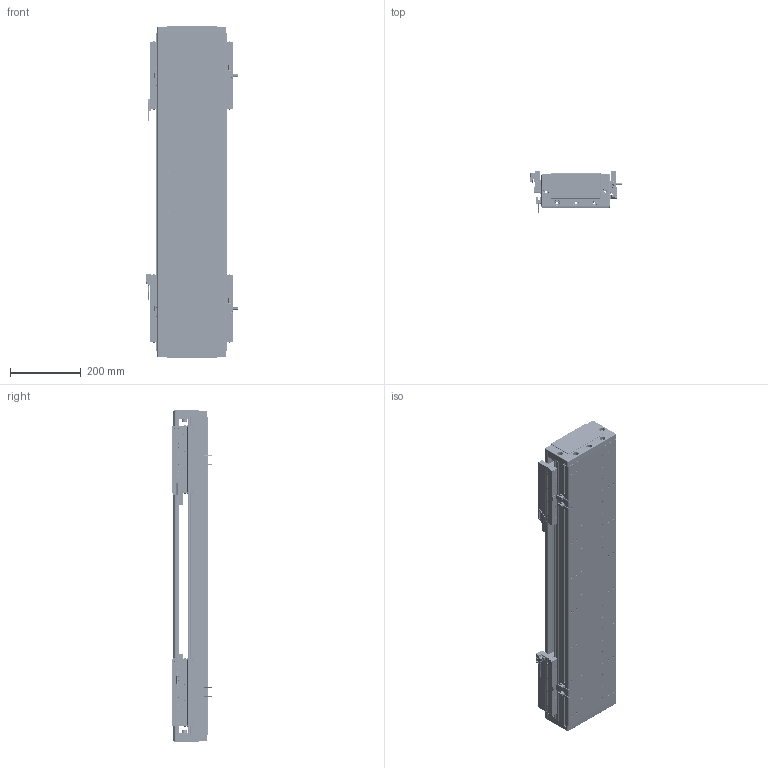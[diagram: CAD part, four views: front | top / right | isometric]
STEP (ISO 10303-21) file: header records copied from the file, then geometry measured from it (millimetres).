
FILE_DESCRIPTION (( 'STEP AP203' ), '1' );
FILE_NAME ('DA-C195-2-C2-T440-C010-0.2 眻盄萇儂.STEP', '2025-08-14T01:47:52', ( '' ), ( '' ), 'SwSTEP 2.0', 'SolidWorks 2019', '' );
FILE_SCHEMA (( 'CONFIG_CONTROL_DESIGN' ));
Length unit declared in the file: millimetre
Products named in the file (16): CU195-C2賑輸-俋楷; DA-C195-2-C2-T440-C010-0.2 眻盄萇儂; DA195-DG-H-00  端盖（压铸镂空版）; 66156-0001-003-00 裔啣; 66156-0001-005-00 光电感应片(默认); DKW168-HXJ-ZJ-00 笢潔滅袉砎蝶; PM-T45ㄗ侂狟ㄘ; LMT黍杅芛; DKW-GYP-ZJ-00 笢潔嫖萇覜茼え; MS200 棠掑喜S315-T240; IU-CU195-L 菁釱絳寢; PM-Y65嫖萇羲壽郪璃; 葩璃 DA95-GT-T-00; DKW-KGZ-ZJ-00 中间光电开关支架; IU-CU195-L-00 菁釱(L900); DA95-HXJ-00 遣喳砎蝶
Assembly tree (28 placements, depth 3):
  DA-C195-2-C2-T440-C010-0.2 眻盄萇儂
    IU-CU195-L 菁釱絳寢
      IU-CU195-L-00 菁釱(L900)
      葩璃 DA95-GT-T-00  x4
    LMT黍杅芛  x2
    MS200 棠掑喜S315-T240
    PM-T45ㄗ侂狟ㄘ  x4
    66156-0001-005-00 光电感应片(默认)  x2
    DA195-DG-H-00  端盖（压铸镂空版）  x2
    DA95-HXJ-00 遣喳砎蝶  x4
    PM-Y65嫖萇羲壽郪璃
    66156-0001-003-00 裔啣
    DKW168-HXJ-ZJ-00 笢潔滅袉砎蝶
    DKW-GYP-ZJ-00 笢潔嫖萇覜茼え
    DKW-KGZ-ZJ-00 中间光电开关支架
    CU195-C2賑輸-俋楷  x2
Bounding box: 258.2 x 115.6 x 940 mm (x, y, z)
Volume: 8113953.5 mm3; surface area: 2234270.2 mm2
Topology: 106 solids, 242 shells, 7778 faces, 19392 edges, 11763 vertices
Faces by surface type: cylinder 3106, plane 2856, cone 946, bspline 718, torus 80, sphere 72
Entity records: 150847 total; most frequent: CARTESIAN_POINT 45656, ORIENTED_EDGE 21786, DIRECTION 20986, EDGE_CURVE 10893, AXIS2_PLACEMENT_3D 7643, VERTEX_POINT 6878, LINE 5700, VECTOR 5700
